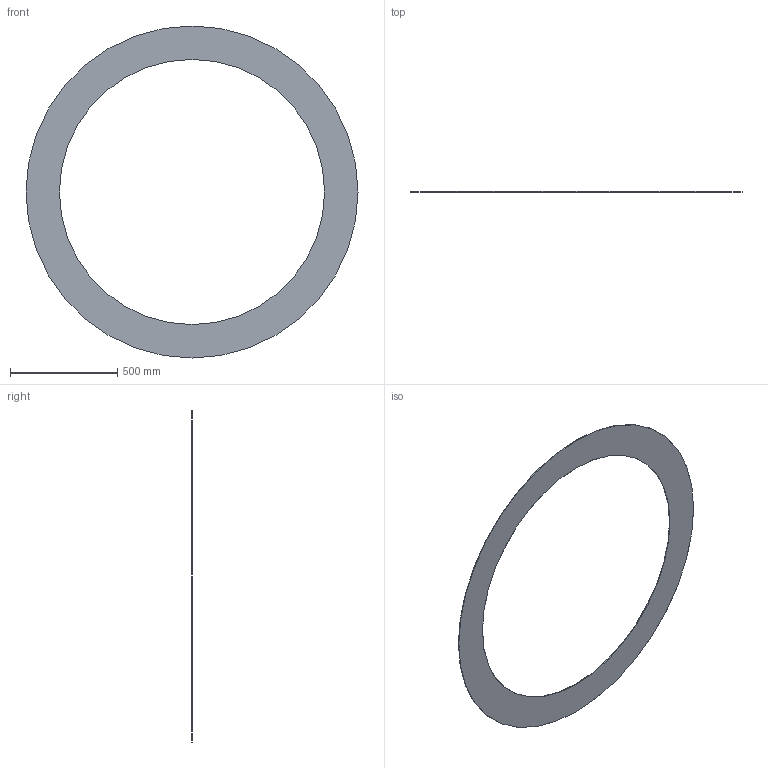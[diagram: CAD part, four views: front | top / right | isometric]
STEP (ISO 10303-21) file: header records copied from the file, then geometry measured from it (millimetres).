
FILE_DESCRIPTION(/* description */ ('Unknown'),/* implementation_level */ '2;1');
FILE_NAME(/* name */ 'GUA.1400B',/* time_stamp */ '2021-04-01T14:52:21+02:00',/* author */ ('Unknown'),/* organization */ ('Unknown'),/* preprocessor_version */ 'ST-DEVELOPER v16.7',/* originating_system */ 'Solid Edge',/* authorisation */ 'Unknown');
FILE_SCHEMA (('AUTOMOTIVE_DESIGN {1 0 10303 214 3 1 1}'));
Length unit declared in the file: millimetre
Products named in the file (1): GUA.1400B
Bounding box: 1548 x 3 x 1548 mm (x, y, z)
Volume: 2046609.4 mm3; surface area: 1390644.8 mm2
Topology: 1 solids, 1 shells, 4 faces, 6 edges, 4 vertices
Faces by surface type: cylinder 2, plane 2
Full cylindrical faces by diameter (mm): 1236 x1, 1548 x1
Entity records: 118 total; most frequent: DIRECTION 18, CARTESIAN_POINT 13, AXIS2_PLACEMENT_3D 9, ORIENTED_EDGE 8, EDGE_LOOP 8, FACE_BOUND 8, EDGE_CURVE 4, VERTEX_POINT 4
